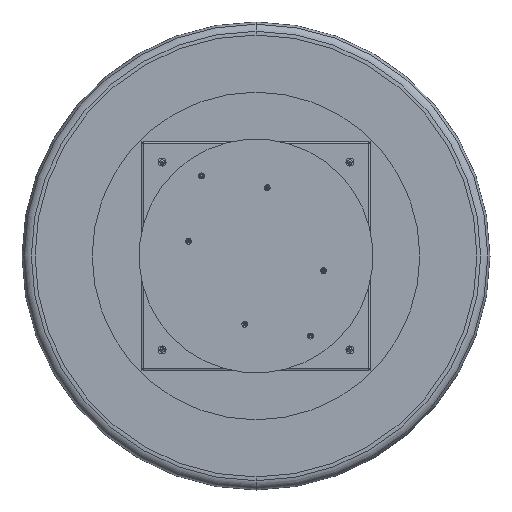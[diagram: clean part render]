
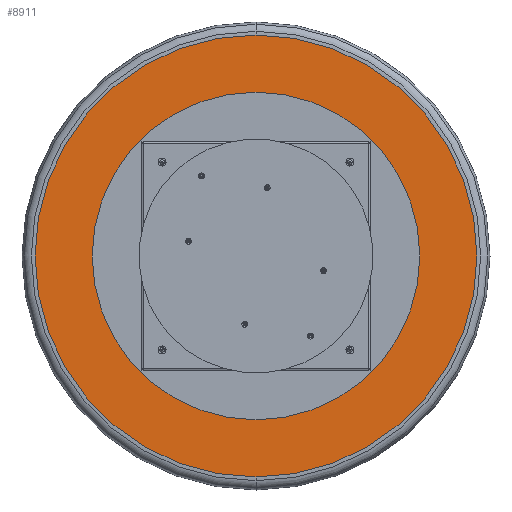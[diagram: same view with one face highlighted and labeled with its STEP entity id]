
A CAD part, front view. The second image highlights one B-rep face of the part: STEP entity #8911.
In plain terms, the highlighted planar face has unit normal (0, -1, 0).
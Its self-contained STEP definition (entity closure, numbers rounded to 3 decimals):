
#378 = DIRECTION ( 'NONE',  ( 0., -1., 0. ) ) ;
#619 = DIRECTION ( 'NONE',  ( 0., -1., 0. ) ) ;
#636 = VERTEX_POINT ( 'NONE', #21690 ) ;
#1227 = EDGE_LOOP ( 'NONE', ( #5294, #2619 ) ) ;
#2305 = DIRECTION ( 'NONE',  ( 0., 0., -1. ) ) ;
#2619 = ORIENTED_EDGE ( 'NONE', *, *, #18072, .F. ) ;
#2963 = AXIS2_PLACEMENT_3D ( 'NONE', #9095, #378, #9305 ) ;
#4135 = DIRECTION ( 'NONE',  ( 0., 0., 1. ) ) ;
#4340 = DIRECTION ( 'NONE',  ( 0., 1., 0. ) ) ;
#5294 = ORIENTED_EDGE ( 'NONE', *, *, #21720, .F. ) ;
#6019 = AXIS2_PLACEMENT_3D ( 'NONE', #8480, #20434, #12200 ) ;
#6233 = CIRCLE ( 'NONE', #20853, 661. ) ;
#6741 = CIRCLE ( 'NONE', #12811, 490. ) ;
#7207 = ORIENTED_EDGE ( 'NONE', *, *, #13000, .F. ) ;
#8480 = CARTESIAN_POINT ( 'NONE',  ( 0., -56., 0. ) ) ;
#8911 = ADVANCED_FACE ( 'NONE', ( #17787, #20824 ), #15703, .T. ) ;
#9095 = CARTESIAN_POINT ( 'NONE',  ( 0., -56., 661. ) ) ;
#9242 = EDGE_CURVE ( 'NONE', #18541, #15603, #6233, .T. ) ;
#9305 = DIRECTION ( 'NONE',  ( 0., 0., -1. ) ) ;
#11628 = VERTEX_POINT ( 'NONE', #20885 ) ;
#11656 = DIRECTION ( 'NONE',  ( 0., 1., 0. ) ) ;
#12200 = DIRECTION ( 'NONE',  ( 0., 0., -1. ) ) ;
#12235 = CARTESIAN_POINT ( 'NONE',  ( 0., -56., 661. ) ) ;
#12251 = EDGE_LOOP ( 'NONE', ( #16626, #7207 ) ) ;
#12263 = CARTESIAN_POINT ( 'NONE',  ( 0., -56., 0. ) ) ;
#12811 = AXIS2_PLACEMENT_3D ( 'NONE', #12263, #619, #2305 ) ;
#13000 = EDGE_CURVE ( 'NONE', #15603, #18541, #15422, .T. ) ;
#14181 = CARTESIAN_POINT ( 'NONE',  ( 0., -56., 0. ) ) ;
#15422 = CIRCLE ( 'NONE', #16134, 661. ) ;
#15450 = CARTESIAN_POINT ( 'NONE',  ( 0., -56., 0. ) ) ;
#15603 = VERTEX_POINT ( 'NONE', #16322 ) ;
#15641 = CIRCLE ( 'NONE', #6019, 490. ) ;
#15703 = PLANE ( 'NONE',  #2963 ) ;
#16134 = AXIS2_PLACEMENT_3D ( 'NONE', #14181, #4340, #4135 ) ;
#16322 = CARTESIAN_POINT ( 'NONE',  ( 0., -56., -661. ) ) ;
#16626 = ORIENTED_EDGE ( 'NONE', *, *, #9242, .F. ) ;
#17787 = FACE_BOUND ( 'NONE', #1227, .T. ) ;
#18072 = EDGE_CURVE ( 'NONE', #636, #11628, #6741, .T. ) ;
#18541 = VERTEX_POINT ( 'NONE', #12235 ) ;
#18560 = DIRECTION ( 'NONE',  ( 0., 0., 1. ) ) ;
#20434 = DIRECTION ( 'NONE',  ( 0., -1., 0. ) ) ;
#20824 = FACE_OUTER_BOUND ( 'NONE', #12251, .T. ) ;
#20853 = AXIS2_PLACEMENT_3D ( 'NONE', #15450, #11656, #18560 ) ;
#20885 = CARTESIAN_POINT ( 'NONE',  ( 0., -56., -490. ) ) ;
#21690 = CARTESIAN_POINT ( 'NONE',  ( 0., -56., 490. ) ) ;
#21720 = EDGE_CURVE ( 'NONE', #11628, #636, #15641, .T. ) ;
